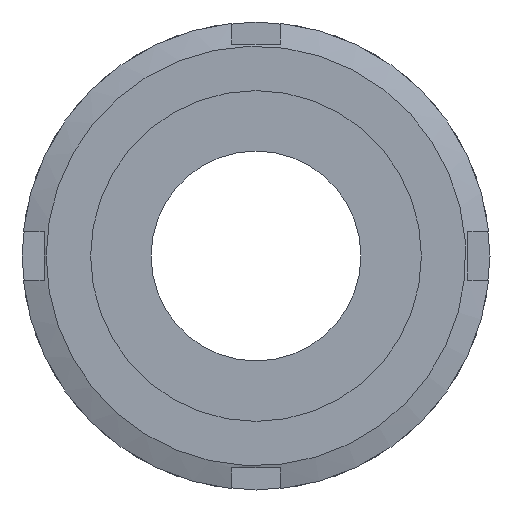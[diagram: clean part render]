
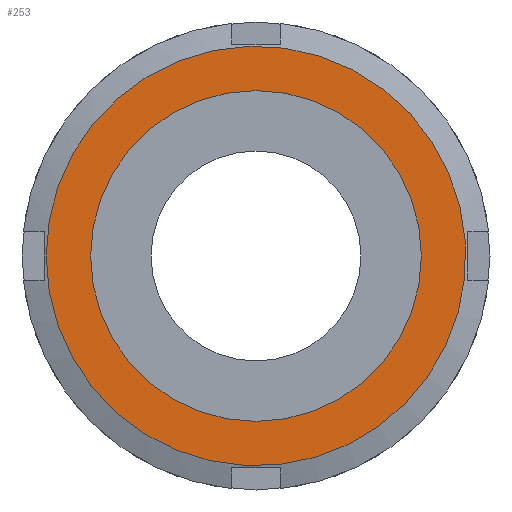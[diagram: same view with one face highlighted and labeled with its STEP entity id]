
A CAD part, left-side view. The second image highlights one B-rep face of the part: STEP entity #253.
In plain terms, the highlighted planar face has unit normal (-1, 0, 0) as drawn and (0, -1, 0) by its records, which use the part's own axes.
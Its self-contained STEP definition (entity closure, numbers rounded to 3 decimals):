
#253 = ADVANCED_FACE( '', ( #352, #353 ), #354, .F. );
#352 = FACE_BOUND( '', #560, .T. );
#353 = FACE_OUTER_BOUND( '', #561, .T. );
#354 = PLANE( '', #562 );
#560 = EDGE_LOOP( '', ( #826 ) );
#561 = EDGE_LOOP( '', ( #827 ) );
#562 = AXIS2_PLACEMENT_3D( '', #828, #829, #830 );
#826 = ORIENTED_EDGE( '', *, *, #1396, .F. );
#827 = ORIENTED_EDGE( '', *, *, #1397, .T. );
#828 = CARTESIAN_POINT( '', ( 26., 0., 0. ) );
#829 = DIRECTION( '', ( 0., 1., 0. ) );
#830 = DIRECTION( '', ( 0., 0., 1. ) );
#1396 = EDGE_CURVE( '', #1606, #1606, #1607, .T. );
#1397 = EDGE_CURVE( '', #1608, #1608, #1609, .T. );
#1606 = VERTEX_POINT( '', #2026 );
#1607 = CIRCLE( '', #2027, 20.5 );
#1608 = VERTEX_POINT( '', #2028 );
#1609 = CIRCLE( '', #2029, 26. );
#2026 = CARTESIAN_POINT( '', ( 0., 0., -20.5 ) );
#2027 = AXIS2_PLACEMENT_3D( '', #2532, #2533, #2534 );
#2028 = CARTESIAN_POINT( '', ( 0., 0., -26. ) );
#2029 = AXIS2_PLACEMENT_3D( '', #2535, #2536, #2537 );
#2532 = CARTESIAN_POINT( '', ( 0., 0., 0. ) );
#2533 = DIRECTION( '', ( 0., -1., 0. ) );
#2534 = DIRECTION( '', ( 0., 0., -1. ) );
#2535 = CARTESIAN_POINT( '', ( 0., 0., 0. ) );
#2536 = DIRECTION( '', ( 0., -1., 0. ) );
#2537 = DIRECTION( '', ( 0., 0., -1. ) );
